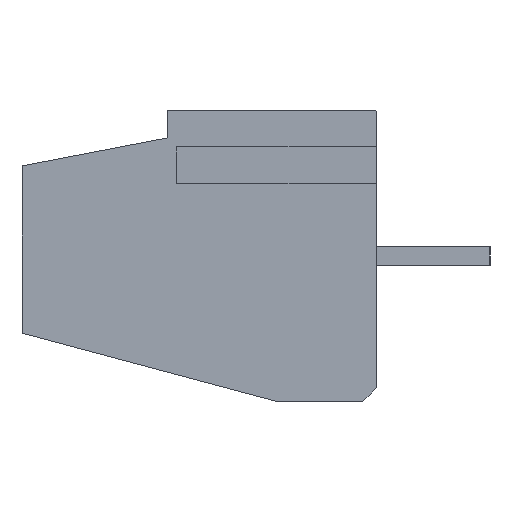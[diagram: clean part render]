
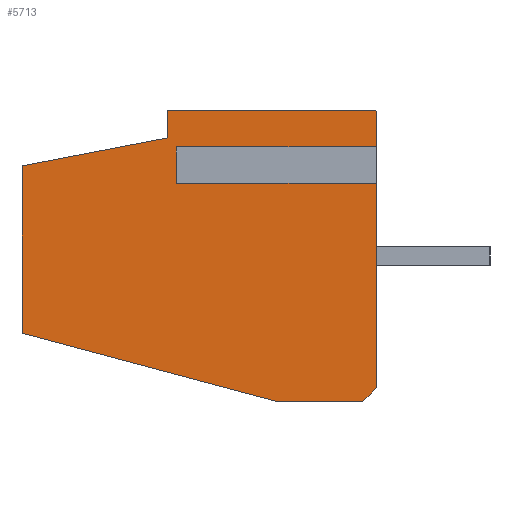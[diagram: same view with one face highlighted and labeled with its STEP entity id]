
A CAD part, left-side view. The second image highlights one B-rep face of the part: STEP entity #5713.
In plain terms, the highlighted planar face has unit normal (-1, 0, 0).
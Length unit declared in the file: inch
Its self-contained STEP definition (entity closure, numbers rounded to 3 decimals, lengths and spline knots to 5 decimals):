
#1=DIRECTION('',(0.,1.,0.));
#2=VECTOR('',#1,0.22);
#3=CARTESIAN_POINT('',(-0.985,0.,0.28));
#4=LINE('',#3,#2);
#5=DIRECTION('',(0.,0.,-1.));
#6=VECTOR('',#5,0.04);
#7=CARTESIAN_POINT('',(-0.985,0.22,0.28));
#8=LINE('',#7,#6);
#9=DIRECTION('',(0.,1.,0.));
#10=VECTOR('',#9,0.22);
#11=CARTESIAN_POINT('',(-0.985,0.,0.24));
#12=LINE('',#11,#10);
#13=DIRECTION('',(0.,0.,-1.));
#14=VECTOR('',#13,0.225);
#15=CARTESIAN_POINT('',(-0.985,0.,0.24));
#16=LINE('',#15,#14);
#17=DIRECTION('',(0.,-0.707,0.707));
#18=VECTOR('',#17,0.02121);
#19=CARTESIAN_POINT('',(-0.985,0.015,0.));
#20=LINE('',#19,#18);
#21=DIRECTION('',(0.,1.,0.));
#22=VECTOR('',#21,0.095);
#23=CARTESIAN_POINT('',(-0.985,0.015,0.));
#24=LINE('',#23,#22);
#25=DIRECTION('',(0.,0.966,0.259));
#26=VECTOR('',#25,0.28987);
#27=CARTESIAN_POINT('',(-0.985,0.11,0.));
#28=LINE('',#27,#26);
#29=DIRECTION('',(0.,0.,1.));
#30=VECTOR('',#29,0.18423);
#31=CARTESIAN_POINT('',(-0.985,0.39,0.075));
#32=LINE('',#31,#30);
#33=DIRECTION('',(0.,0.,1.));
#34=VECTOR('',#33,0.03);
#35=CARTESIAN_POINT('',(-0.985,0.23,0.29));
#36=LINE('',#35,#34);
#37=DIRECTION('',(0.,-1.,0.));
#38=VECTOR('',#37,0.229);
#39=CARTESIAN_POINT('',(-0.985,0.23,0.32));
#40=LINE('',#39,#38);
#41=CARTESIAN_POINT('',(-0.985,0.001,0.319));
#42=DIRECTION('',(-1.,0.,0.));
#43=DIRECTION('',(0.,-1.,0.));
#44=AXIS2_PLACEMENT_3D('',#41,#42,#43);
#46=DIRECTION('',(0.,0.,-1.));
#47=VECTOR('',#46,0.039);
#48=CARTESIAN_POINT('',(-0.985,0.,0.319));
#49=LINE('',#48,#47);
#847=DIRECTION('',(0.,0.982,-0.189));
#848=VECTOR('',#847,0.16293);
#849=CARTESIAN_POINT('',(-0.985,0.23,0.29));
#850=LINE('',#849,#848);
#4558=CARTESIAN_POINT('',(-0.985,0.11,0.));
#4559=CARTESIAN_POINT('',(-0.985,0.39,0.075));
#4560=VERTEX_POINT('',#4558);
#4561=VERTEX_POINT('',#4559);
#4566=CARTESIAN_POINT('',(-0.985,0.23,0.29));
#4567=CARTESIAN_POINT('',(-0.985,0.23,0.32));
#4568=VERTEX_POINT('',#4566);
#4569=VERTEX_POINT('',#4567);
#4686=CARTESIAN_POINT('',(-0.985,0.015,0.));
#4687=CARTESIAN_POINT('',(-0.985,0.,0.015));
#4688=VERTEX_POINT('',#4686);
#4689=VERTEX_POINT('',#4687);
#4692=CARTESIAN_POINT('',(-0.985,0.,0.319));
#4693=CARTESIAN_POINT('',(-0.985,0.001,0.32));
#4694=VERTEX_POINT('',#4692);
#4695=VERTEX_POINT('',#4693);
#4720=CARTESIAN_POINT('',(-0.985,0.39,0.25923));
#4722=VERTEX_POINT('',#4720);
#4734=CARTESIAN_POINT('',(-0.985,0.,0.28));
#4735=CARTESIAN_POINT('',(-0.985,0.22,0.28));
#4736=VERTEX_POINT('',#4734);
#4737=VERTEX_POINT('',#4735);
#4738=CARTESIAN_POINT('',(-0.985,0.22,0.24));
#4739=VERTEX_POINT('',#4738);
#4740=CARTESIAN_POINT('',(-0.985,0.,0.24));
#4741=VERTEX_POINT('',#4740);
#5680=CARTESIAN_POINT('',(-0.985,0.,0.));
#5681=DIRECTION('',(1.,0.,0.));
#5682=DIRECTION('',(0.,0.,-1.));
#5683=AXIS2_PLACEMENT_3D('',#5680,#5681,#5682);
#5684=PLANE('',#5683);
#5686=ORIENTED_EDGE('',*,*,#5685,.T.);
#5688=ORIENTED_EDGE('',*,*,#5687,.T.);
#5690=ORIENTED_EDGE('',*,*,#5689,.F.);
#5692=ORIENTED_EDGE('',*,*,#5691,.T.);
#5694=ORIENTED_EDGE('',*,*,#5693,.F.);
#5696=ORIENTED_EDGE('',*,*,#5695,.T.);
#5698=ORIENTED_EDGE('',*,*,#5697,.T.);
#5700=ORIENTED_EDGE('',*,*,#5699,.T.);
#5702=ORIENTED_EDGE('',*,*,#5701,.F.);
#5704=ORIENTED_EDGE('',*,*,#5703,.T.);
#5706=ORIENTED_EDGE('',*,*,#5705,.T.);
#5708=ORIENTED_EDGE('',*,*,#5707,.F.);
#5710=ORIENTED_EDGE('',*,*,#5709,.T.);
#5711=EDGE_LOOP('',(#5686,#5688,#5690,#5692,#5694,#5696,#5698,#5700,#5702,#5704,
#5706,#5708,#5710));
#5712=FACE_OUTER_BOUND('',#5711,.F.);
#5713=ADVANCED_FACE('',(#5712),#5684,.F.);
#45=CIRCLE('',#44,0.001);
#5685=EDGE_CURVE('',#4736,#4737,#4,.T.);
#5687=EDGE_CURVE('',#4737,#4739,#8,.T.);
#5689=EDGE_CURVE('',#4741,#4739,#12,.T.);
#5691=EDGE_CURVE('',#4741,#4689,#16,.T.);
#5693=EDGE_CURVE('',#4688,#4689,#20,.T.);
#5695=EDGE_CURVE('',#4688,#4560,#24,.T.);
#5697=EDGE_CURVE('',#4560,#4561,#28,.T.);
#5699=EDGE_CURVE('',#4561,#4722,#32,.T.);
#5701=EDGE_CURVE('',#4568,#4722,#850,.T.);
#5703=EDGE_CURVE('',#4568,#4569,#36,.T.);
#5705=EDGE_CURVE('',#4569,#4695,#40,.T.);
#5707=EDGE_CURVE('',#4694,#4695,#45,.T.);
#5709=EDGE_CURVE('',#4694,#4736,#49,.T.);
